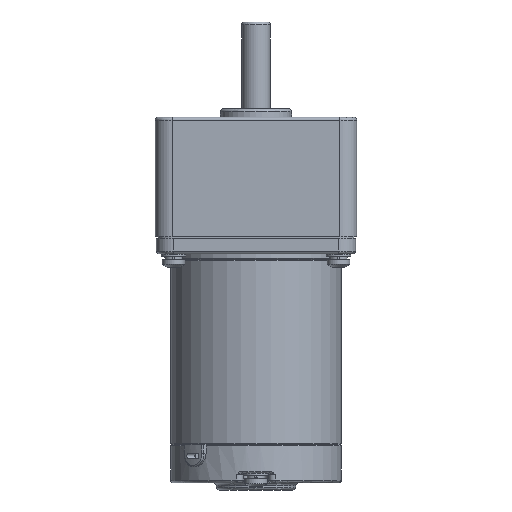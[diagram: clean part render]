
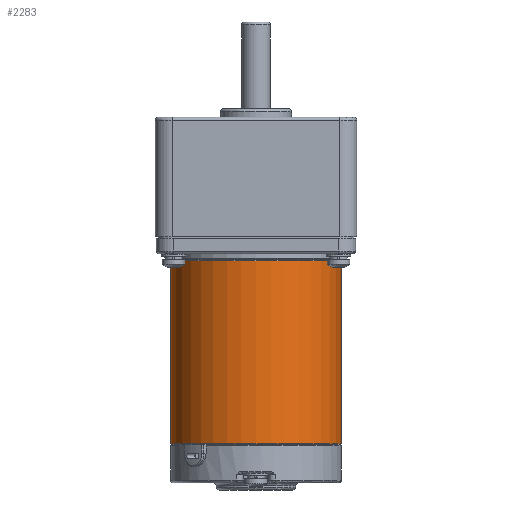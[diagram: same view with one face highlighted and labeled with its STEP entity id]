
A CAD part, front view. The second image highlights one B-rep face of the part: STEP entity #2283.
In plain terms, the highlighted cylindrical face has radius 30 mm (diameter 60 mm), a partial arc.
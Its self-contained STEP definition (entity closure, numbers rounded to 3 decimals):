
#344 = VERTEX_POINT ( 'NONE', #8853 ) ;
#576 = DIRECTION ( 'NONE',  ( 0., 0., 1. ) ) ;
#1232 = AXIS2_PLACEMENT_3D ( 'NONE', #6854, #3318, #576 ) ;
#1755 = VERTEX_POINT ( 'NONE', #5055 ) ;
#2006 = EDGE_CURVE ( 'NONE', #344, #7823, #10208, .T. ) ;
#2283 = ADVANCED_FACE ( 'NONE', ( #11747 ), #7911, .T. ) ;
#3128 = LINE ( 'NONE', #4774, #5171 ) ;
#3318 = DIRECTION ( 'NONE',  ( 0., 1., 0. ) ) ;
#3434 = ORIENTED_EDGE ( 'NONE', *, *, #9189, .T. ) ;
#3949 = EDGE_CURVE ( 'NONE', #1755, #6754, #11744, .T. ) ;
#4069 = ORIENTED_EDGE ( 'NONE', *, *, #3949, .T. ) ;
#4098 = DIRECTION ( 'NONE',  ( 0., 1., 0. ) ) ;
#4753 = LINE ( 'NONE', #8490, #6105 ) ;
#4768 = CARTESIAN_POINT ( 'NONE',  ( 0., 0.3, 0. ) ) ;
#4774 = CARTESIAN_POINT ( 'NONE',  ( 0., 0., -30. ) ) ;
#5055 = CARTESIAN_POINT ( 'NONE',  ( 0., 0.3, 30. ) ) ;
#5150 = CARTESIAN_POINT ( 'NONE',  ( 0., 0.3, -30. ) ) ;
#5170 = CARTESIAN_POINT ( 'NONE',  ( 0., 64.5, 30. ) ) ;
#5171 = VECTOR ( 'NONE', #4098, 1000. ) ;
#5864 = DIRECTION ( 'NONE',  ( 0., 0., 1. ) ) ;
#6105 = VECTOR ( 'NONE', #7504, 1000. ) ;
#6262 = CARTESIAN_POINT ( 'NONE',  ( 0., 64.5, 0. ) ) ;
#6277 = AXIS2_PLACEMENT_3D ( 'NONE', #4768, #8612, #5864 ) ;
#6754 = VERTEX_POINT ( 'NONE', #5150 ) ;
#6854 = CARTESIAN_POINT ( 'NONE',  ( 0., 0., 0. ) ) ;
#7104 = EDGE_LOOP ( 'NONE', ( #4069, #3434, #10875, #10192 ) ) ;
#7301 = EDGE_CURVE ( 'NONE', #1755, #7823, #4753, .T. ) ;
#7504 = DIRECTION ( 'NONE',  ( 0., 1., 0. ) ) ;
#7823 = VERTEX_POINT ( 'NONE', #5170 ) ;
#7911 = CYLINDRICAL_SURFACE ( 'NONE', #1232, 30. ) ;
#8490 = CARTESIAN_POINT ( 'NONE',  ( 0., 0., 30. ) ) ;
#8612 = DIRECTION ( 'NONE',  ( 0., 1., 0. ) ) ;
#8853 = CARTESIAN_POINT ( 'NONE',  ( 0., 64.5, -30. ) ) ;
#9139 = DIRECTION ( 'NONE',  ( 0., 0., 1. ) ) ;
#9189 = EDGE_CURVE ( 'NONE', #6754, #344, #3128, .T. ) ;
#9628 = AXIS2_PLACEMENT_3D ( 'NONE', #6262, #11102, #9139 ) ;
#10192 = ORIENTED_EDGE ( 'NONE', *, *, #7301, .F. ) ;
#10208 = CIRCLE ( 'NONE', #9628, 30. ) ;
#10875 = ORIENTED_EDGE ( 'NONE', *, *, #2006, .T. ) ;
#11102 = DIRECTION ( 'NONE',  ( 0., -1., 0. ) ) ;
#11744 = CIRCLE ( 'NONE', #6277, 30. ) ;
#11747 = FACE_OUTER_BOUND ( 'NONE', #7104, .T. ) ;
